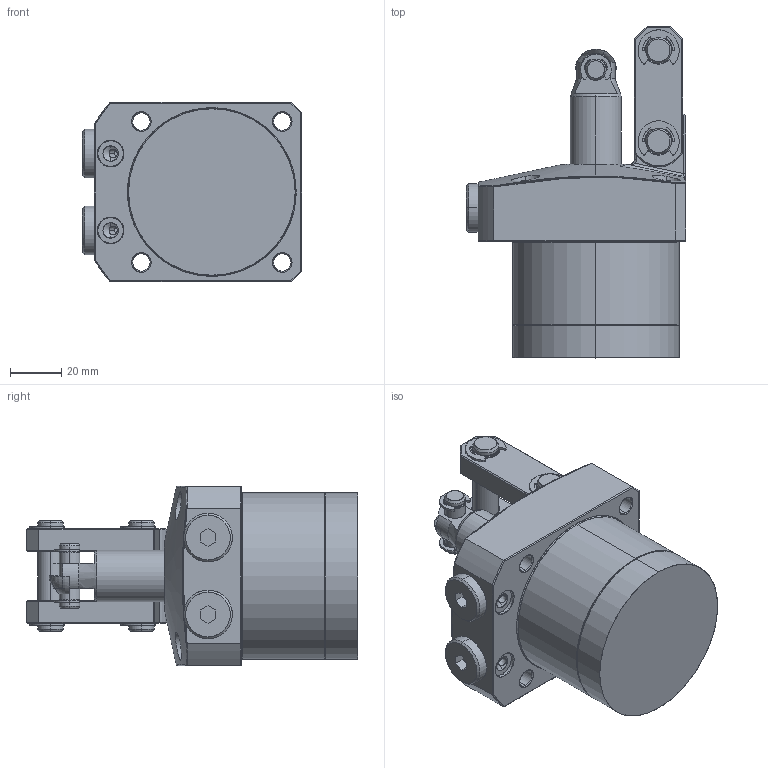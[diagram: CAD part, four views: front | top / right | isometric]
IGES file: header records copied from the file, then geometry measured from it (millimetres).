
Start section: SolidWorks IGES file using analytic representation for surfaces
Global section: file name: D:\abhilash\nijil\cylinder\LKA Series\con v lka\lk65\lk65cc\65CC PT\0402-0651.IGS; native system: SolidWorks 2010; preprocessor: SolidWorks 2010; author: nidheesh; date: 130730.102610; units: millimetre
Bounding box: 85.5 x 129.5 x 70 mm (x, y, z)
Surface area: 48897 mm2 (no closed solid volume)
Topology: 0 solids, 0 shells, 411 faces, 5298 edges, 5297 vertices
Faces by surface type: bspline 217, revolution 194
